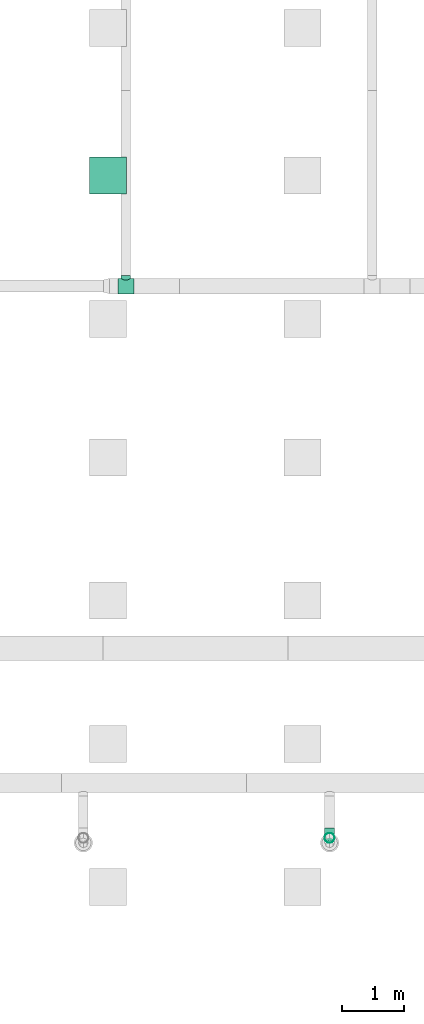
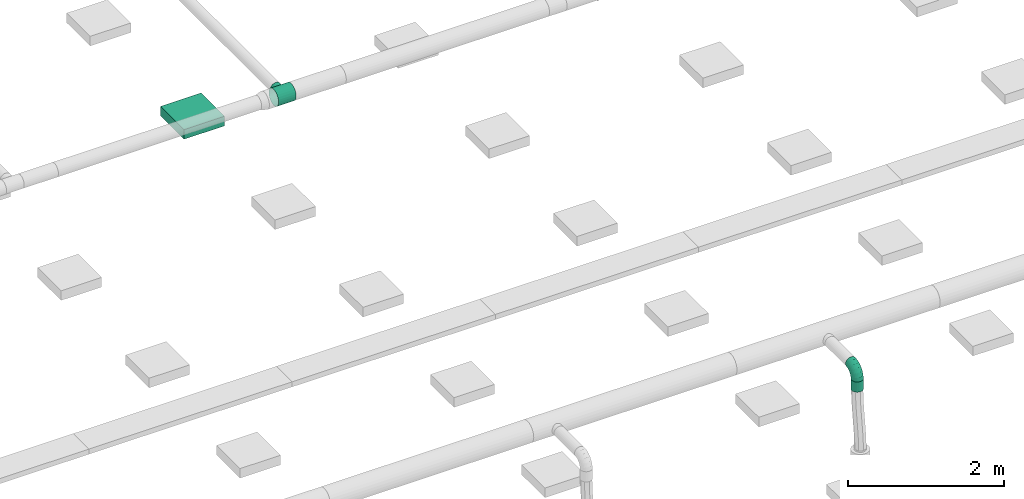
# One storey, part 21 of 374: 2 flow fittings, 1 distribution element, 1 flow segment.
"""IFC2X3 building model written with IfcOpenShell, lengths in metres."""

import ifcopenshell
import ifcopenshell.guid

model = None  # the IFC model being written
_history = None  # IfcOwnerHistory: only IFC2X3 demands one
_inside = {}  # id of a spatial element -> (the spatial element, [elements in it])
_under = {}  # id of a project, library or spatial element -> (it, [spatial elements below it])
_declared = {}  # id of a project -> (the project, [libraries it declares])
_typed = {}  # id of a type object -> (the type object, [elements of that type])
_made_of = {}  # id of a material, layer set ... -> (it, [elements and type objects made of it])


def new_model(schema):
    """Start an empty IFC model of exactly this schema.

    Asked for "IFC4X3", IfcOpenShell would pick the latest addendum, in which some entities
    have other attributes; the version numbers below select the first issue.
    IFC2X3 requires an IfcOwnerHistory on every rooted entity: one is made here for all.
    """
    global model, _history
    if schema == "IFC4X3":
        model = ifcopenshell.file(schema_version=(4, 3, 0, 0))
    else:
        model = ifcopenshell.file(schema=schema)
    _inside.clear()
    _under.clear()
    _declared.clear()
    _typed.clear()
    _made_of.clear()
    _history = None
    if model.schema == "IFC2X3":
        org = make("IfcOrganization", Name="unknown")
        user = make(
            "IfcPersonAndOrganization",
            ThePerson=make("IfcPerson", FamilyName="unknown"),
            TheOrganization=org,
        )
        app = make(
            "IfcApplication",
            ApplicationDeveloper=org,
            Version="unknown",
            ApplicationFullName="unknown",
            ApplicationIdentifier="unknown",
        )
        _history = make(
            "IfcOwnerHistory",
            OwningUser=user,
            OwningApplication=app,
            ChangeAction="ADDED",
            CreationDate=0,
        )
    return model


def make(cls, **values):
    """One entity of the class cls with the attributes given. An attribute that is None is left unset."""
    return model.create_entity(
        cls, **{name: value for name, value in values.items() if value is not None}
    )


def rooted(cls, **values):
    """An entity with a GlobalId (a new one), such as an element, a storey or a relation."""
    return make(cls, GlobalId=ifcopenshell.guid.new(), OwnerHistory=_history, **values)


def si_unit(unit_type, name, prefix=None):
    """IfcSIUnit, for example si_unit("LENGTHUNIT", "METRE", prefix="MILLI")."""
    return make("IfcSIUnit", UnitType=unit_type, Prefix=prefix, Name=name)


def assignment(units):
    """IfcUnitAssignment: the units of a project."""
    return None if units is None else make("IfcUnitAssignment", Units=units)


def point(xyz):
    """IfcCartesianPoint."""
    return None if xyz is None else make("IfcCartesianPoint", Coordinates=xyz)


def direction(xyz):
    """IfcDirection."""
    return None if xyz is None else make("IfcDirection", DirectionRatios=xyz)


def frame(location, z_axis=None, x_axis=None):
    """IfcAxis2Placement3D, a coordinate frame: its origin and axes. An axis left out is left unset."""
    return make(
        "IfcAxis2Placement3D",
        Location=point(location),
        Axis=direction(z_axis),
        RefDirection=direction(x_axis),
    )


def frame_2d(location, x_axis=None):
    """IfcAxis2Placement2D, a coordinate frame in the plane: its origin and x axis."""
    return make(
        "IfcAxis2Placement2D", Location=point(location), RefDirection=direction(x_axis)
    )


def origin():
    """The frame at (0, 0, 0) with its axes left unset."""
    return frame((0.0, 0.0, 0.0))


def place(relative_to, where):
    """IfcLocalPlacement: puts the frame where relative to a parent placement (None: the world)."""
    return make(
        "IfcLocalPlacement", PlacementRelTo=relative_to, RelativePlacement=where
    )


def context(
    kind, dimensions, precision=None, world=None, true_north=None, identifier=None
):
    """IfcGeometricRepresentationContext, for example the 3D "Model" context."""
    return make(
        "IfcGeometricRepresentationContext",
        ContextIdentifier=identifier,
        ContextType=kind,
        CoordinateSpaceDimension=dimensions,
        Precision=precision,
        WorldCoordinateSystem=world,
        TrueNorth=true_north,
    )


def subcontext(parent, identifier, kind, view, scale=None):
    """IfcGeometricRepresentationSubContext, for example "Body" below "Model"."""
    return make(
        "IfcGeometricRepresentationSubContext",
        ContextIdentifier=identifier,
        ContextType=kind,
        ParentContext=parent,
        TargetScale=scale,
        TargetView=view,
    )


def project(units=None, contexts=None):
    """IfcProject with its units and contexts."""
    return rooted(
        "IfcProject",
        Name="project",
        RepresentationContexts=contexts,
        UnitsInContext=assignment(units),
    )


def spatial(cls, under=None, at=None, **own):
    """A site, building, storey or space (cls), placed at a placement, below another one or the project."""
    s = rooted(cls, ObjectPlacement=at, **own)
    if under is not None:
        _under.setdefault(under.id(), (under, []))[1].append(s)
    return s


def profile(cls, at=None, kind="AREA", **sizes):
    """A parametric profile (cls). Its sizes go by their IFC names, for example OverallWidth=200.0."""
    return make(cls, ProfileType=kind, Position=at, **sizes)


def rectangle(**sizes):
    """IfcRectangleProfileDef."""
    return profile("IfcRectangleProfileDef", **sizes)


def extrude(swept, where, along, depth):
    """IfcExtrudedAreaSolid: the profile swept, set in the frame where, extruded along a direction by depth."""
    return make(
        "IfcExtrudedAreaSolid",
        SweptArea=swept,
        Position=where,
        ExtrudedDirection=direction(along),
        Depth=depth,
    )


def faces_of(points, faces, orient=None, outer=None):
    """IfcFace entities. A face is a list of loops; a loop is a list of indices into points, from 0.

    orient and outer hold one flag for each loop. By default every Orientation is true, the
    first loop of a face is its IfcFaceOuterBound and the others are IfcFaceBound.
    """
    made = []
    for i, loops in enumerate(faces):
        bounds = []
        for j, loop in enumerate(loops):
            is_outer = j == 0 if outer is None else outer[i][j]
            bounds.append(
                make(
                    "IfcFaceOuterBound" if is_outer else "IfcFaceBound",
                    Bound=make("IfcPolyLoop", Polygon=[points[k] for k in loop]),
                    Orientation=True if orient is None else orient[i][j],
                )
            )
        made.append(make("IfcFace", Bounds=bounds))
    return made


def open_shell(faces, orient=None, outer=None):
    """The faces of one IfcOpenShell. surface_model builds it on its shared points."""
    return ("IfcOpenShell", faces, orient, outer)


def surface_model(cls, points, shells):
    """IfcFaceBasedSurfaceModel or IfcShellBasedSurfaceModel (cls): surfaces that need not close."""
    shared = [point(p) for p in points]
    made = [make(c, CfsFaces=faces_of(shared, fs, o, b)) for c, fs, o, b in shells]
    if cls == "IfcFaceBasedSurfaceModel":
        return make(cls, FbsmFaces=made)
    return make(cls, SbsmBoundary=made)


def shape(context_of_items, identifier, shape_type, items):
    """IfcShapeRepresentation: the items that make up one representation, for example the "Body"."""
    return make(
        "IfcShapeRepresentation",
        ContextOfItems=context_of_items,
        RepresentationIdentifier=identifier,
        RepresentationType=shape_type,
        Items=items,
    )


def source(mapping_origin, context_of_items, identifier, shape_type, items):
    """IfcRepresentationMap: a shape defined once, which mapped items show again and again."""
    return make(
        "IfcRepresentationMap",
        MappingOrigin=mapping_origin,
        MappedRepresentation=shape(context_of_items, identifier, shape_type, items),
    )


def transform(
    local_origin,
    x_axis=None,
    y_axis=None,
    z_axis=None,
    scale=None,
    scale2=None,
    scale3=None,
    uniform=True,
):
    """IfcCartesianTransformationOperator3D, or its non-uniform kind. x_axis, y_axis, z_axis: its Axis1, 2, 3."""
    if uniform:
        return make(
            "IfcCartesianTransformationOperator3D",
            Axis1=direction(x_axis),
            Axis2=direction(y_axis),
            LocalOrigin=point(local_origin),
            Scale=scale,
            Axis3=direction(z_axis),
        )
    return make(
        "IfcCartesianTransformationOperator3DnonUniform",
        Axis1=direction(x_axis),
        Axis2=direction(y_axis),
        LocalOrigin=point(local_origin),
        Scale=scale,
        Axis3=direction(z_axis),
        Scale2=scale2,
        Scale3=scale3,
    )


def mapped(mapping_source, mapping_target):
    """IfcMappedItem: shows the shape of a source again, moved by a transform."""
    return make(
        "IfcMappedItem", MappingSource=mapping_source, MappingTarget=mapping_target
    )


def made_of(thing, what):
    """Note that an element or type object is made of a material, layer set ...; save() writes the relation."""
    if what is not None:
        _made_of.setdefault(what.id(), (what, []))[1].append(thing)
    return thing


def element(
    cls,
    number,
    at=None,
    inside=None,
    cuts=None,
    type_object=None,
    material=None,
    context=None,
    identifier="Body",
    shape_type=None,
    held_by="IfcProductDefinitionShape",
    body=None,
    shapes=None,
    **own,
):
    """One element of the class cls, such as IfcWall. Its Tag is "e" and its number.

    at: its placement. inside: the storey or other place that contains it. cuts: it is an
    opening in that element (IfcRelVoidsElement). A single representation is given by context,
    identifier, shape_type and body (its items); several are given by shapes. held_by: the class
    of the entity that holds the representations. save() writes the other relations.
    """
    e = rooted(cls, Tag="e%d" % number, ObjectPlacement=at, **own)
    if body is not None:
        shapes = [shape(context, identifier, shape_type, body)]
    if shapes is not None:
        e.Representation = make(held_by, Representations=shapes)
    if inside is not None:
        _inside.setdefault(inside.id(), (inside, []))[1].append(e)
    if cuts is not None:
        rooted(
            "IfcRelVoidsElement", RelatingBuildingElement=cuts, RelatedOpeningElement=e
        )
    if type_object is not None:
        _typed.setdefault(type_object.id(), (type_object, []))[1].append(e)
    return made_of(e, material)


def aggregate(whole, parts):
    """IfcRelAggregates: a whole, such as a stair, and the parts it consists of."""
    return rooted("IfcRelAggregates", RelatingObject=whole, RelatedObjects=parts)


def save(model, path):
    """Write the relations noted so far, then the file.

    IfcRelAggregates (storeys below a building ...), IfcRelContainedInSpatialStructure (elements
    in a storey), IfcRelDefinesByType, IfcRelAssociatesMaterial and IfcRelDeclares: one each for
    every whole, place, type object, material and project.
    """
    for whole, parts in _under.values():
        aggregate(whole, parts)
    for where, things in _inside.values():
        rooted(
            "IfcRelContainedInSpatialStructure",
            RelatedElements=things,
            RelatingStructure=where,
        )
    for kind, things in _typed.values():
        rooted("IfcRelDefinesByType", RelatedObjects=things, RelatingType=kind)
    for what, things in _made_of.values():
        rooted("IfcRelAssociatesMaterial", RelatedObjects=things, RelatingMaterial=what)
    for by, libraries in _declared.values():
        rooted("IfcRelDeclares", RelatingContext=by, RelatedDefinitions=libraries)
    model.write(path)


model = new_model("IFC2X3")

# Units and contexts
model_context = context("Model", 3, precision=1e-05, world=origin(), true_north=direction((-0.4480736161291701, 0.8939966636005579)))
body_context = subcontext(model_context, "Body", "Model", "MODEL_VIEW")
ifc_project = project(units=[si_unit("LENGTHUNIT", "METRE"), si_unit("AREAUNIT", "SQUARE_METRE"), si_unit("VOLUMEUNIT", "CUBIC_METRE"), si_unit("PLANEANGLEUNIT", "RADIAN"), si_unit("THERMODYNAMICTEMPERATUREUNIT", "KELVIN"), si_unit("MASSUNIT", "GRAM", prefix="KILO"), si_unit("TIMEUNIT", "SECOND")], contexts=[model_context])

# Site, building, storey
site_placement = place(None, origin())
site = spatial("IfcSite", under=ifc_project, at=site_placement, Name="Site 1", CompositionType="ELEMENT")
building_placement = place(site_placement, origin())
building = spatial("IfcBuilding", under=site, at=building_placement, Name="Undefined", CompositionType="ELEMENT")
storey_placement = place(building_placement, origin())
storey = spatial("IfcBuildingStorey", under=building, at=storey_placement, Name="Rez de chauss\x8ee", CompositionType="ELEMENT", Elevation=0.0)

# Flow fittings
shared_shape_1 = source(origin(), body_context, "Body", "SurfaceModel", [
    surface_model("IfcFaceBasedSurfaceModel", [(0.06265257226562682, -8.8817842e-16, 0.0), (0.062296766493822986, 0.02088115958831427, -7.105427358e-15), (0.0003558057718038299, 0.020881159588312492, 7.105427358e-15), (0.0, 0.0, 0.0), (-0.059474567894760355, 0.022956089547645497, -0.015896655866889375), (-0.06051773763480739, 0.002098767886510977, -0.01607928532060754), (-0.11311701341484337, 0.02696454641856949, -0.04660663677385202), (-0.11477645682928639, 0.006153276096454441, -0.04714207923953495), (-0.15691588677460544, 0.0326333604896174, -0.09003710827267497), (-0.15907851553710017, 0.01188721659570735, -0.09107150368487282), (-0.18788636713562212, 0.03957621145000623, -0.14322835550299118), (-0.1904048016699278, 0.01890983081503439, -0.14487384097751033), (-0.2039178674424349, 0.04731995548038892, -0.20255548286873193), (-0.20662048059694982, 0.026742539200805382, -0.20488255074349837), (0.061253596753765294, 0.04103889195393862, -0.0053597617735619), (0.0013989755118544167, 0.04103889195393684, -0.005359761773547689), (-0.05641614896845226, 0.04304393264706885, -0.02072097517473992), (-0.10825177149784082, 0.04691737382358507, -0.050396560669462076), (-0.15057538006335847, 0.05239524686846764, -0.09236417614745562), (-0.18050269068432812, 0.05910424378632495, -0.14376379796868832), (-0.19599420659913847, 0.06658715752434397, -0.20109262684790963), (0.05959415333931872, 0.05909948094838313, -0.01571402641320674), (0.003058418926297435, 0.05909948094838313, -0.01571402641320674), (-0.05155090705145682, 0.06099334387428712, -0.030223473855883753), (-0.10051228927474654, 0.06465200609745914, -0.058253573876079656), (-0.1404890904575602, 0.0698261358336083, -0.09789412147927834), (-0.16875695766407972, 0.0761631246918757, -0.14644367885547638), (-0.18338948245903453, 0.08323111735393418, -0.2005936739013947), (0.057431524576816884, 0.07383212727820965, -0.030357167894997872), (0.005221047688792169, 0.07383212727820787, -0.03035716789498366), (-0.0452104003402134, 0.07558110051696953, -0.04375657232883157), (-0.09042599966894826, 0.07895985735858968, -0.06964223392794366), (-0.12734438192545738, 0.08373814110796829, -0.10625008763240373), (-0.15344962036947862, 0.08959031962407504, -0.15108536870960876), (-0.16696268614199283, 0.0961175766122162, -0.20109262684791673), (0.054913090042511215, 0.0842328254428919, -0.048291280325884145), (0.007739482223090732, 0.08423282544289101, -0.04829128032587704), (-0.037826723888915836, 0.08581307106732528, -0.06039801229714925), (-0.07868026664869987, 0.08886587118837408, -0.08378642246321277), (-0.11203704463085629, 0.09318318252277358, -0.11686262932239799), (-0.13562384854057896, 0.09847078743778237, -0.1573725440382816), (-0.14783327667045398, 0.10436834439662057, -0.20255548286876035), (0.05221047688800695, 0.0895927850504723, -0.06829418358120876), (0.010442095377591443, 0.08959278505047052, -0.06829418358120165), (-0.029903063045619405, 0.09099196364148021, -0.07901370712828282), (-0.06607554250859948, 0.09369496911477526, -0.0997222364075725), (-0.0956102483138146, 0.0975175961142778, -0.12900851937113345), (-0.11649443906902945, 0.10219933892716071, -0.16487674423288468), (-0.12730489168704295, 0.1074211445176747, -0.2048825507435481), (0.04950786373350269, 0.08954673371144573, -0.08900271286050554), (0.013144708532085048, 0.08954673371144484, -0.08900271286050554), (-0.02197940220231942, 0.09076484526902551, -0.09833502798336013), (-0.05347081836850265, 0.09311805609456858, -0.11636367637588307), (-0.0791834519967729, 0.09644599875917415, -0.14186003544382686), (-0.09736502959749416, 0.10052187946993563, -0.17308657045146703), (-0.10677650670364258, 0.1050679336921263, -0.20791524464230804), (0.04698942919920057, 0.08409780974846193, -0.10900561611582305), (0.015663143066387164, 0.08409780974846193, -0.10900561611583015), (-0.014595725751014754, 0.08514719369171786, -0.11704525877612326), (-0.0417250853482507, 0.0871744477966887, -0.13257665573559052), (-0.06387611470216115, 0.09004141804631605, -0.15454136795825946), (-0.07953925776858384, 0.09355272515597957, -0.1814425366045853), (-0.08764709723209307, 0.09746907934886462, -0.21144689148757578), (0.04482680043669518, 0.0736173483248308, -0.12693972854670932), (0.017825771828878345, 0.0736173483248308, -0.12693972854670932), (-0.008255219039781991, 0.07452184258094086, -0.13386932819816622), (-0.03163879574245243, 0.0762691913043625, -0.14725628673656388), (-0.050731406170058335, 0.07874031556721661, -0.1661883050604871), (-0.06423192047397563, 0.08176681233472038, -0.18937519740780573), (-0.07122030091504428, 0.08514243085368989, -0.21523681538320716), (0.04316735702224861, 0.058819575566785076, -0.14158287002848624), (0.019485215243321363, 0.058819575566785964, -0.14158287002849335), (-0.0033899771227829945, 0.05961289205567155, -0.14766070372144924), (-0.02389931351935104, 0.06114546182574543, -0.15940217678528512), (-0.04064511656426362, 0.06331284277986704, -0.17600712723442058), (-0.052486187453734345, 0.06596733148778, -0.19634395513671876), (-0.05861557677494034, 0.06892802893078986, -0.2190267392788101), (0.04212418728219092, 0.040712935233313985, -0.15193713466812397), (0.020528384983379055, 0.040712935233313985, -0.15193713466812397), (-0.0003315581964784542, 0.041436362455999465, -0.15747952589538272), (-0.019034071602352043, 0.04283391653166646, -0.16818660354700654), (-0.03430460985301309, 0.04481035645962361, -0.1833286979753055), (-0.04510251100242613, 0.047230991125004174, -0.20187390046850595), (-0.05069191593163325, 0.04993085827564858, -0.22255838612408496), (0.04176838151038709, 0.02053136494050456, -0.15729689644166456), (0.020884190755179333, 0.02053136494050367, -0.15729689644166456), (0.0007116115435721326, 0.021230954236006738, -0.16265665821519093), (-0.017374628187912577, 0.022582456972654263, -0.17301092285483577), (-0.03214198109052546, 0.024493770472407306, -0.1876540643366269), (-0.042584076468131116, 0.026834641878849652, -0.20558817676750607), (-0.04798930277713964, 0.02944554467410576, -0.22559108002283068), (0.04212418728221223, -0.000349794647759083, -0.15729689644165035), (0.020528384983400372, -0.000349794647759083, -0.15729689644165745), (-0.0003315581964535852, 0.00037363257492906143, -0.1628392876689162), (-0.019034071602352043, 0.0017711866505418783, -0.17354636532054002), (-0.03430460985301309, 0.0037476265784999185, -0.18868845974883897), (-0.04510251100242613, 0.00616826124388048, -0.20723366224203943), (-0.05069191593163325, 0.008868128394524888, -0.22791814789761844), (0.04316735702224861, -0.020507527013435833, -0.15193713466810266), (0.019485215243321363, -0.020507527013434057, -0.15193713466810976), (-0.0033899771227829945, -0.019714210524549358, -0.15801496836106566), (-0.02389931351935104, -0.01818164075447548, -0.16975644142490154), (-0.04064511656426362, -0.01601425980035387, -0.186361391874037), (-0.052486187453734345, -0.013359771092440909, -0.20669821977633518), (-0.05861557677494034, -0.010399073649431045, -0.22938100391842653), (0.04482680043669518, -0.03856811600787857, -0.1415828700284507), (0.017825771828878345, -0.03856811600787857, -0.1415828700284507), (-0.008255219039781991, -0.03766362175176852, -0.1485124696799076), (-0.03163879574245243, -0.03591627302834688, -0.16189942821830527), (-0.050731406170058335, -0.03344514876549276, -0.1808314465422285), (-0.06423192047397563, -0.030418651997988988, -0.20401833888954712), (-0.07122030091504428, -0.027043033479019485, -0.22987995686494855), (0.04698942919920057, -0.05330076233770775, -0.12693972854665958), (0.015663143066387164, -0.05330076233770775, -0.12693972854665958), (-0.014595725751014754, -0.05225137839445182, -0.1349793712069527), (-0.0417250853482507, -0.05022412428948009, -0.15051076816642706), (-0.06387611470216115, -0.047357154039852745, -0.172475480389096), (-0.07953925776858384, -0.043845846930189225, -0.19937664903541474), (-0.08764709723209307, -0.03992949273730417, -0.2293810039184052), (0.04950786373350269, -0.06370146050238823, -0.10900561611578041), (0.013144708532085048, -0.06370146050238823, -0.10900561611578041), (-0.02197940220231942, -0.06248334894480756, -0.11833793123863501), (-0.05347081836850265, -0.06013013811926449, -0.13636657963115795), (-0.0791834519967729, -0.05680219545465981, -0.16186293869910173), (-0.09736502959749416, -0.05272631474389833, -0.1930894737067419), (-0.10677650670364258, -0.04818026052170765, -0.2279181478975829), (0.05221047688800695, -0.06906142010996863, -0.08900271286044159), (0.010442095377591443, -0.06906142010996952, -0.08900271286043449), (-0.029903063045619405, -0.06766224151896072, -0.09972223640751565), (-0.06607554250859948, -0.06495923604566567, -0.12043076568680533), (-0.0956102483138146, -0.06113660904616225, -0.14971704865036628), (-0.11649443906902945, -0.05645486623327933, -0.1855852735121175), (-0.12730489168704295, -0.05123306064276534, -0.22559108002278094), (0.054913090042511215, -0.06901536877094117, -0.06829418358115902), (0.007739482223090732, -0.06901536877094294, -0.06829418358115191), (-0.037826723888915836, -0.06743512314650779, -0.08040091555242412), (-0.07868026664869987, -0.06438232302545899, -0.10378932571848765), (-0.11203704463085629, -0.06006501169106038, -0.13686553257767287), (-0.13562384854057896, -0.0547774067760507, -0.17737544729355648), (-0.14783327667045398, -0.04887984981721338, -0.22255838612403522), (0.057431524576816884, -0.06356644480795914, -0.0482912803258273), (0.005221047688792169, -0.06356644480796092, -0.04829128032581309), (-0.0452104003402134, -0.061817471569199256, -0.0616906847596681), (-0.09042599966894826, -0.05843871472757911, -0.0875763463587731), (-0.12734438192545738, -0.05366043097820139, -0.12418420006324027), (-0.15344962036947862, -0.04780825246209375, -0.1690194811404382), (-0.16696268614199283, -0.041280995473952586, -0.21902673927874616), (0.05959415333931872, -0.05308598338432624, -0.030357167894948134), (0.003058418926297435, -0.05308598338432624, -0.030357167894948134), (-0.05155090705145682, -0.05119212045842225, -0.04486661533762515), (-0.10051228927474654, -0.04753345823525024, -0.07289671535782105), (-0.1404890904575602, -0.04235932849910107, -0.11253726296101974), (-0.16875695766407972, -0.03602233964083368, -0.16108682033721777), (-0.18338948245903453, -0.02895434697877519, -0.2152368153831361), (0.061253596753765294, -0.03828821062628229, -0.015714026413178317), (0.0013989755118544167, -0.03828821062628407, -0.015714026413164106), (-0.05641614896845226, -0.03628316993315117, -0.031075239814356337), (-0.10825177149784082, -0.03240972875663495, -0.06075082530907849), (-0.15057538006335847, -0.026931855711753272, -0.10271844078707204), (-0.18050269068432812, -0.02022285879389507, -0.15411806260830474), (-0.19599420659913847, -0.012739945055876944, -0.21144689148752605), (0.062296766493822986, -0.020181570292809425, -0.005359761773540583), (0.0003558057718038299, -0.020181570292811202, -0.0053597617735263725), (-0.059474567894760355, -0.018106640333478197, -0.021256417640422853), (-0.11311701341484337, -0.014098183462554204, -0.051966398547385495), (-0.15691588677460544, -0.00842936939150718, -0.09539687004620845), (-0.18788636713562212, -0.0014865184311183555, -0.14858811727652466), (-0.2039178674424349, 0.006257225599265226, -0.2079152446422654)], [open_shell([[[0, 1, 2, 3]], [[3, 2, 4, 5]], [[5, 4, 6, 7]], [[7, 6, 8, 9]], [[9, 8, 10, 11]], [[11, 10, 12, 13]], [[1, 14, 15, 2]], [[2, 15, 16, 4]], [[4, 16, 17, 6]], [[6, 17, 18, 8]], [[8, 18, 19, 10]], [[10, 19, 20, 12]], [[14, 21, 22, 15]], [[15, 22, 23, 16]], [[16, 23, 24, 17]], [[17, 24, 25, 18]], [[18, 25, 26, 19]], [[19, 26, 27, 20]], [[21, 28, 29, 22]], [[22, 29, 30, 23]], [[23, 30, 31, 24]], [[24, 31, 32, 25]], [[25, 32, 33, 26]], [[26, 33, 34, 27]], [[28, 35, 36, 29]], [[29, 36, 37, 30]], [[30, 37, 38, 31]], [[31, 38, 39, 32]], [[32, 39, 40, 33]], [[33, 40, 41, 34]], [[35, 42, 43, 36]], [[36, 43, 44, 37]], [[37, 44, 45, 38]], [[38, 45, 46, 39]], [[39, 46, 47, 40]], [[40, 47, 48, 41]], [[42, 49, 50, 43]], [[43, 50, 51, 44]], [[44, 51, 52, 45]], [[45, 52, 53, 46]], [[46, 53, 54, 47]], [[47, 54, 55, 48]], [[49, 56, 57, 50]], [[50, 57, 58, 51]], [[51, 58, 59, 52]], [[52, 59, 60, 53]], [[53, 60, 61, 54]], [[54, 61, 62, 55]], [[56, 63, 64, 57]], [[57, 64, 65, 58]], [[58, 65, 66, 59]], [[59, 66, 67, 60]], [[60, 67, 68, 61]], [[61, 68, 69, 62]], [[63, 70, 71, 64]], [[64, 71, 72, 65]], [[65, 72, 73, 66]], [[66, 73, 74, 67]], [[67, 74, 75, 68]], [[68, 75, 76, 69]], [[70, 77, 78, 71]], [[71, 78, 79, 72]], [[72, 79, 80, 73]], [[73, 80, 81, 74]], [[74, 81, 82, 75]], [[75, 82, 83, 76]], [[77, 84, 85, 78]], [[78, 85, 86, 79]], [[79, 86, 87, 80]], [[80, 87, 88, 81]], [[81, 88, 89, 82]], [[82, 89, 90, 83]], [[84, 91, 92, 85]], [[85, 92, 93, 86]], [[86, 93, 94, 87]], [[87, 94, 95, 88]], [[88, 95, 96, 89]], [[89, 96, 97, 90]], [[91, 98, 99, 92]], [[92, 99, 100, 93]], [[93, 100, 101, 94]], [[94, 101, 102, 95]], [[95, 102, 103, 96]], [[96, 103, 104, 97]], [[98, 105, 106, 99]], [[99, 106, 107, 100]], [[100, 107, 108, 101]], [[101, 108, 109, 102]], [[102, 109, 110, 103]], [[103, 110, 111, 104]], [[105, 112, 113, 106]], [[106, 113, 114, 107]], [[107, 114, 115, 108]], [[108, 115, 116, 109]], [[109, 116, 117, 110]], [[110, 117, 118, 111]], [[112, 119, 120, 113]], [[113, 120, 121, 114]], [[114, 121, 122, 115]], [[115, 122, 123, 116]], [[116, 123, 124, 117]], [[117, 124, 125, 118]], [[119, 126, 127, 120]], [[120, 127, 128, 121]], [[121, 128, 129, 122]], [[122, 129, 130, 123]], [[123, 130, 131, 124]], [[124, 131, 132, 125]], [[126, 133, 134, 127]], [[127, 134, 135, 128]], [[128, 135, 136, 129]], [[129, 136, 137, 130]], [[130, 137, 138, 131]], [[131, 138, 139, 132]], [[133, 140, 141, 134]], [[134, 141, 142, 135]], [[135, 142, 143, 136]], [[136, 143, 144, 137]], [[137, 144, 145, 138]], [[138, 145, 146, 139]], [[140, 147, 148, 141]], [[141, 148, 149, 142]], [[142, 149, 150, 143]], [[143, 150, 151, 144]], [[144, 151, 152, 145]], [[145, 152, 153, 146]], [[147, 154, 155, 148]], [[148, 155, 156, 149]], [[149, 156, 157, 150]], [[150, 157, 158, 151]], [[151, 158, 159, 152]], [[152, 159, 160, 153]], [[154, 161, 162, 155]], [[155, 162, 163, 156]], [[156, 163, 164, 157]], [[157, 164, 165, 158]], [[158, 165, 166, 159]], [[159, 166, 167, 160]], [[161, 0, 3, 162]], [[162, 3, 5, 163]], [[163, 5, 7, 164]], [[164, 7, 9, 165]], [[165, 9, 11, 166]], [[166, 11, 13, 167]]])]),
])
flow_fitting_1_placement = place(storey_placement, origin())
element("IfcFlowFitting", 1, at=flow_fitting_1_placement, inside=storey, Name="Coude", ObjectType="Coude", context=body_context, shape_type="MappedRepresentation", body=[
    mapped(shared_shape_1, transform((14.290000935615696, 1.8881775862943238, 3.702116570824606), x_axis=(9.56658874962e-13, -0.13052619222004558, -0.9914448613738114), y_axis=(0.9915887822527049, 0.12832103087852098, -0.01689378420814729), z_axis=(0.12942830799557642, -0.983105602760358, 0.1294283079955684))),
])
shared_shape_2 = source(origin(), body_context, "Body", "SurfaceModel", [
    surface_model("IfcFaceBasedSurfaceModel", [(0.0, 0.03263154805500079, 0.0), (0.0, 0.0, 0.0), (0.2599999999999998, -7.105427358e-15, 0.0), (0.2599999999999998, 0.03263154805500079, 0.0), (0.0, -0.031519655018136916, -0.008445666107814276), (0.2599999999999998, -0.031519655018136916, -0.008445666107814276), (0.0, -0.05977940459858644, -0.024761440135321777), (0.2599999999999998, -0.05977940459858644, -0.024761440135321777), (0.0, -0.08285339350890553, -0.047835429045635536), (0.2599999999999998, -0.08285339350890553, -0.047835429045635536), (0.0, -0.09916916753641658, -0.07609517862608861), (0.2599999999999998, -0.09916916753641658, -0.07609517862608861), (0.0, -0.1076148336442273, -0.10761483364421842), (0.2599999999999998, -0.1076148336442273, -0.10761483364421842), (0.0, -0.1076148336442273, -0.14024638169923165), (0.2599999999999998, -0.1076148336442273, -0.14024638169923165), (0.0, -0.09916916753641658, -0.17176603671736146), (0.2599999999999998, -0.09916916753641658, -0.17176603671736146), (0.0, -0.08285339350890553, -0.2000257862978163), (0.2599999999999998, -0.08285339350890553, -0.2000257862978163), (0.0, -0.059779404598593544, -0.22309977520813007), (0.2599999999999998, -0.059779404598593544, -0.22309977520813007), (0.0, -0.03151965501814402, -0.23941554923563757), (0.2599999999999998, -0.03151965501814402, -0.23941554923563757), (0.0, -1.4210854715e-14, -0.24786121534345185), (0.2599999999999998, -1.4210854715e-14, -0.24786121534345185), (0.0, 0.03263154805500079, -0.24786121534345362), (0.2599999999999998, 0.03263154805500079, -0.24786121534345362), (0.0, 0.0641512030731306, -0.23941554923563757), (0.2599999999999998, 0.0641512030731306, -0.23941554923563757), (0.0, 0.09241095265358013, -0.22309977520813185), (0.2599999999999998, 0.09241095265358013, -0.22309977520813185), (0.0, 0.11548494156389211, -0.2000257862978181), (0.2599999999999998, 0.11548494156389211, -0.2000257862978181), (0.0, 0.13180071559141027, -0.171766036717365), (0.2599999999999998, 0.13180071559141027, -0.171766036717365), (0.0, 0.140246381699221, -0.1402463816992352), (0.2599999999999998, 0.140246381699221, -0.1402463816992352), (0.0, 0.140246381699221, -0.10761483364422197), (0.2599999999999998, 0.140246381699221, -0.10761483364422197), (0.0, 0.13180071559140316, -0.07609517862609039), (0.2599999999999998, 0.13180071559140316, -0.07609517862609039), (0.0, 0.11548494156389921, -0.04783542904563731), (0.2599999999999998, 0.11548494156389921, -0.04783542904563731), (0.0, 0.09241095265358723, -0.024761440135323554), (0.2599999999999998, 0.09241095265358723, -0.024761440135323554), (0.0, 0.06415120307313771, -0.008445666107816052), (0.2599999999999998, 0.06415120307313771, -0.008445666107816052), (0.20999999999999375, 0.14024638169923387, -0.14024638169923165), (0.2072740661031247, 0.1358317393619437, -0.1605493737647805), (0.2072740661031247, 0.18711601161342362, -0.16730107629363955), (0.20999999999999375, 0.18981862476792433, -0.14677269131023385), (0.19928203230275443, 0.12850875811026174, -0.17904625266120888), (0.19928203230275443, 0.1845975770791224, -0.1864304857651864), (0.18656854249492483, 0.11944596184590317, -0.19456462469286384), (0.18656854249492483, 0.1824349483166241, -0.20285728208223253), (0.1699999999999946, 0.11042580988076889, -0.20620029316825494), (0.1699999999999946, 0.1807755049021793, -0.2154620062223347), (0.15070552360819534, 0.10364225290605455, -0.2133682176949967), (0.15070552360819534, 0.1797323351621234, -0.22338566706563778), (0.12999999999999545, 0.10109884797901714, -0.21578282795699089), (0.12999999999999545, 0.17937652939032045, -0.22608828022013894), (0.10929447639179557, 0.10364225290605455, -0.2133682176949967), (0.10929447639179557, 0.1797323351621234, -0.22338566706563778), (0.0899999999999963, 0.11042580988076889, -0.20620029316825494), (0.0899999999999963, 0.1807755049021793, -0.2154620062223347), (0.07343145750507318, 0.11944596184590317, -0.19456462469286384), (0.07343145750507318, 0.1824349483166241, -0.20285728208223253), (0.06071796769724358, 0.12850875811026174, -0.17904625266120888), (0.06071796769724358, 0.1845975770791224, -0.1864304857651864), (0.052725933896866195, 0.1358317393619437, -0.1605493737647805), (0.052725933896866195, 0.18711601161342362, -0.16730107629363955), (0.04999999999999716, 0.14024638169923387, -0.14024638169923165), (0.04999999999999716, 0.18981862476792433, -0.14677269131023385), (0.052725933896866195, 0.14123696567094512, -0.11949260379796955), (0.052725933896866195, 0.19252123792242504, -0.12624430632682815), (0.06071796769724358, 0.13895085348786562, -0.09973066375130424), (0.06071796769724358, 0.19503967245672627, -0.10711489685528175), (0.07343145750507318, 0.13421331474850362, -0.08239544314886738), (0.07343145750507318, 0.19720230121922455, -0.09068810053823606), (0.0899999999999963, 0.12851204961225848, -0.06882166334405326), (0.0899999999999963, 0.1988617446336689, -0.07808337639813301), (0.10929447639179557, 0.12381483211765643, -0.060142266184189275), (0.10929447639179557, 0.19990491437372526, -0.07015971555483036), (0.12999999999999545, 0.12198303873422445, -0.057151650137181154), (0.12999999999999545, 0.20026072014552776, -0.0674571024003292), (0.15070552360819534, 0.12381483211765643, -0.060142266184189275), (0.15070552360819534, 0.19990491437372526, -0.07015971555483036), (0.1699999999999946, 0.12851204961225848, -0.06882166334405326), (0.1699999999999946, 0.1988617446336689, -0.07808337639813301), (0.18656854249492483, 0.13421331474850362, -0.08239544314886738), (0.18656854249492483, 0.19720230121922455, -0.09068810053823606), (0.19928203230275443, 0.13895085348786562, -0.09973066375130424), (0.19928203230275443, 0.19503967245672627, -0.10711489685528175), (0.2072740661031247, 0.14123696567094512, -0.11949260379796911), (0.2072740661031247, 0.19252123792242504, -0.12624430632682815)], [open_shell([[[0, 1, 2, 3]], [[1, 4, 5, 2]], [[4, 6, 7, 5]], [[6, 8, 9, 7]], [[8, 10, 11, 9]], [[10, 12, 13, 11]], [[12, 14, 15, 13]], [[14, 16, 17, 15]], [[16, 18, 19, 17]], [[18, 20, 21, 19]], [[20, 22, 23, 21]], [[22, 24, 25, 23]], [[24, 26, 27, 25]], [[26, 28, 29, 27]], [[28, 30, 31, 29]], [[30, 32, 33, 31]], [[32, 34, 35, 33]], [[34, 36, 37, 35]], [[36, 38, 39, 37]], [[38, 40, 41, 39]], [[40, 42, 43, 41]], [[42, 44, 45, 43]], [[44, 46, 47, 45]], [[46, 0, 3, 47]], [[48, 49, 50, 51]], [[49, 52, 53, 50]], [[52, 54, 55, 53]], [[54, 56, 57, 55]], [[56, 58, 59, 57]], [[58, 60, 61, 59]], [[60, 62, 63, 61]], [[62, 64, 65, 63]], [[64, 66, 67, 65]], [[66, 68, 69, 67]], [[68, 70, 71, 69]], [[70, 72, 73, 71]], [[72, 74, 75, 73]], [[74, 76, 77, 75]], [[76, 78, 79, 77]], [[78, 80, 81, 79]], [[80, 82, 83, 81]], [[82, 84, 85, 83]], [[84, 86, 87, 85]], [[86, 88, 89, 87]], [[88, 90, 91, 89]], [[90, 92, 93, 91]], [[92, 94, 95, 93]], [[94, 48, 51, 95]]])]),
])
flow_fitting_2_placement = place(storey_placement, origin())
element("IfcFlowFitting", 2, at=flow_fitting_2_placement, inside=storey, Name="Pièce en té 90°", ObjectType="Pièce en té 90°", context=body_context, shape_type="MappedRepresentation", body=[
    mapped(shared_shape_2, transform((10.850053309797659, 10.88684159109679, 3.920740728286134), x_axis=(1.0, 0.0, 0.0), y_axis=(0.0, 0.9914448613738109, 0.1305261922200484), z_axis=(0.0, -0.1305261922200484, 0.9914448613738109))),
])

# Flow segment
shared_shape_3 = source(origin(), body_context, "Body", "SurfaceModel", [
    surface_model("IfcFaceBasedSurfaceModel", [(0.0, 0.020884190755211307, 0.0), (0.0, 0.0, 0.0), (0.16000000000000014, 0.0, -4.4408921e-16), (0.16000000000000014, 0.0208841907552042, -4.4408921e-16), (0.0, -0.020172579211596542, -0.005405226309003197), (0.16000000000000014, -0.020172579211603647, -0.005405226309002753), (0.0, -0.03825881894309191, -0.015847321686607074), (0.16000000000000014, -0.03825881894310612, -0.015847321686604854), (0.0, -0.05302617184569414, -0.0306146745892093), (0.16000000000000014, -0.05302617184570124, -0.03061467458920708), (0.0, -0.06346826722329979, -0.04870091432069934), (0.16000000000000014, -0.0634682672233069, -0.04870091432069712), (0.0, -0.06887349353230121, -0.06887349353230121), (0.16000000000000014, -0.06887349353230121, -0.06887349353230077), (0.0, -0.06887349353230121, -0.08975768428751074), (0.16000000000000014, -0.06887349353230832, -0.08975768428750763), (0.0, -0.06346826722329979, -0.10993026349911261), (0.16000000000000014, -0.0634682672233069, -0.10993026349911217), (0.0, -0.05302617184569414, -0.12801650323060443), (0.16000000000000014, -0.05302617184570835, -0.1280165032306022), (0.0, -0.038258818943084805, -0.14278385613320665), (0.16000000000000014, -0.03825881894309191, -0.14278385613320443), (0.0, -0.020172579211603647, -0.15322595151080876), (0.16000000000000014, -0.020172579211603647, -0.1532259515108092), (0.0, 7.105427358e-15, -0.15863117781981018), (0.16000000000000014, -7.105427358e-15, -0.15863117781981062), (0.0, 0.020884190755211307, -0.15863117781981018), (0.16000000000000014, 0.0208841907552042, -0.15863117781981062), (0.0, 0.04105676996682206, -0.15322595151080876), (0.16000000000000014, 0.04105676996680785, -0.1532259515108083), (0.0, 0.05914300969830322, -0.1427838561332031), (0.16000000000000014, 0.05914300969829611, -0.14278385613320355), (0.0, 0.07391036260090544, -0.12801650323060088), (0.16000000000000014, 0.07391036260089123, -0.1280165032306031), (0.0, 0.0843524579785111, -0.10993026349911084), (0.16000000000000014, 0.08435245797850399, -0.10993026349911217), (0.0, 0.08975768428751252, -0.08975768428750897), (0.16000000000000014, 0.08975768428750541, -0.08975768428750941), (0.0, 0.08975768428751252, -0.06887349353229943), (0.16000000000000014, 0.08975768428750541, -0.06887349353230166), (0.0, 0.0843524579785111, -0.048700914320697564), (0.16000000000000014, 0.08435245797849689, -0.04870091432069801), (0.0, 0.07391036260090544, -0.030614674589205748), (0.16000000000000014, 0.07391036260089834, -0.03061467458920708), (0.0, 0.05914300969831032, -0.015847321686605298), (0.16000000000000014, 0.05914300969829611, -0.01584732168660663), (0.0, 0.04105676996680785, -0.005405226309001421), (0.16000000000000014, 0.04105676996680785, -0.005405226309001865)], [open_shell([[[0, 1, 2, 3]], [[1, 4, 5, 2]], [[4, 6, 7, 5]], [[6, 8, 9, 7]], [[8, 10, 11, 9]], [[10, 12, 13, 11]], [[12, 14, 15, 13]], [[14, 16, 17, 15]], [[16, 18, 19, 17]], [[18, 20, 21, 19]], [[20, 22, 23, 21]], [[22, 24, 25, 23]], [[24, 26, 27, 25]], [[26, 28, 29, 27]], [[28, 30, 31, 29]], [[30, 32, 33, 31]], [[32, 34, 35, 33]], [[34, 36, 37, 35]], [[36, 38, 39, 37]], [[38, 40, 41, 39]], [[40, 42, 43, 41]], [[42, 44, 45, 43]], [[44, 46, 47, 45]], [[46, 0, 3, 47]]])]),
])
flow_segment_placement = place(storey_placement, origin())
element("IfcFlowSegment", 3, at=flow_segment_placement, inside=storey, Name="Tube", ObjectType="Tube", context=body_context, shape_type="MappedRepresentation", body=[
    mapped(shared_shape_3, transform((14.269295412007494, 2.0372738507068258, 3.4800000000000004), x_axis=(0.0, 0.0, 1.0), y_axis=(0.9914448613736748, 0.13052619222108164, 0.0), z_axis=(-0.13052619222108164, 0.9914448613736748, 0.0))),
])

# Distribution element
distribution_element_placement = place(storey_placement, origin())
element("IfcDistributionElement", 4, at=distribution_element_placement, inside=storey, Name="Decken-Rechteckleuchte mit Rahmen AP", ObjectType="Decken-Rechteckleuchte mit Rahmen AP", context=body_context, shape_type="SweptSolid", body=[
    extrude(rectangle(XDim=0.6000000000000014, YDim=0.6000000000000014, at=frame_2d((3.552713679e-15, 0.0), x_axis=(0.0, 1.0))), frame((10.689072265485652, 12.712499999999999, 2.5500000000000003), z_axis=(0.0, 0.0, -1.0), x_axis=(1.0, 0.0, 0.0)), (0.0, 0.0, 1.0), 0.15),
])

save(model, "model.ifc")
